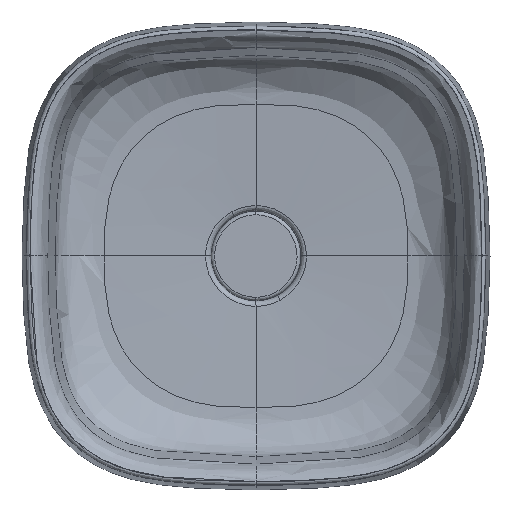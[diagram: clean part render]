
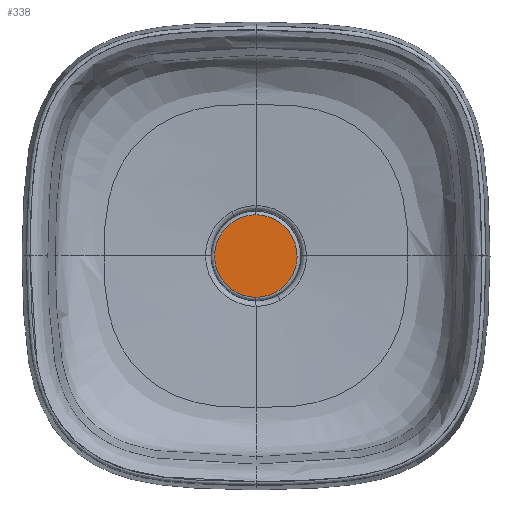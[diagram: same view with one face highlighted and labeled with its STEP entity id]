
A CAD part, top view. The second image highlights one B-rep face of the part: STEP entity #338.
In plain terms, the highlighted planar face has unit normal (0.001, 0, 1).
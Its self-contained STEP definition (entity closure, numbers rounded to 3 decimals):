
#338=ADVANCED_FACE('',(#484),#2036,.T.);
#484=FACE_OUTER_BOUND('',#632,.T.);
#632=EDGE_LOOP('',(#820,#821,#822,#823));
#820=ORIENTED_EDGE('',*,*,#1429,.F.);
#821=ORIENTED_EDGE('',*,*,#1430,.T.);
#822=ORIENTED_EDGE('',*,*,#1442,.T.);
#823=ORIENTED_EDGE('',*,*,#1426,.F.);
#1426=EDGE_CURVE('',#1841,#1842,#1740,.T.);
#1429=EDGE_CURVE('',#1840,#1841,#1743,.T.);
#1430=EDGE_CURVE('',#1840,#1844,#1744,.T.);
#1442=EDGE_CURVE('',#1844,#1842,#1756,.T.);
#1740=(
BOUNDED_CURVE()
B_SPLINE_CURVE(2,(#2546,#2547,#2548),.UNSPECIFIED.,.F.,.F.)
B_SPLINE_CURVE_WITH_KNOTS((3,3),(0.,58.124),.UNSPECIFIED.)
CURVE()
GEOMETRIC_REPRESENTATION_ITEM()
RATIONAL_B_SPLINE_CURVE((1.,0.707,1.))
REPRESENTATION_ITEM('')
);
#1743=(
BOUNDED_CURVE()
B_SPLINE_CURVE(2,(#2555,#2556,#2557),.UNSPECIFIED.,.F.,.F.)
B_SPLINE_CURVE_WITH_KNOTS((3,3),(174.373,232.497),
 .UNSPECIFIED.)
CURVE()
GEOMETRIC_REPRESENTATION_ITEM()
RATIONAL_B_SPLINE_CURVE((1.,0.707,1.))
REPRESENTATION_ITEM('')
);
#1744=(
BOUNDED_CURVE()
B_SPLINE_CURVE(2,(#2558,#2559,#2560),.UNSPECIFIED.,.F.,.F.)
B_SPLINE_CURVE_WITH_KNOTS((3,3),(-174.373,-116.249),
 .UNSPECIFIED.)
CURVE()
GEOMETRIC_REPRESENTATION_ITEM()
RATIONAL_B_SPLINE_CURVE((1.,0.707,1.))
REPRESENTATION_ITEM('')
);
#1756=(
BOUNDED_CURVE()
B_SPLINE_CURVE(2,(#2600,#2601,#2602),.UNSPECIFIED.,.F.,.F.)
B_SPLINE_CURVE_WITH_KNOTS((3,3),(-116.249,-58.124),
 .UNSPECIFIED.)
CURVE()
GEOMETRIC_REPRESENTATION_ITEM()
RATIONAL_B_SPLINE_CURVE((1.,0.707,1.))
REPRESENTATION_ITEM('')
);
#1840=VERTEX_POINT('',#2466);
#1841=VERTEX_POINT('',#2467);
#1842=VERTEX_POINT('',#2468);
#1844=VERTEX_POINT('',#2470);
#2036=PLANE('',#2072);
#2072=AXIS2_PLACEMENT_3D('',#2275,#2091,$);
#2091=DIRECTION('',(0.001,0.,1.));
#2275=CARTESIAN_POINT('',(-44.584,44.269,-95.46));
#2466=CARTESIAN_POINT('',(-0.104,-37.115,-95.476));
#2467=CARTESIAN_POINT('',(-37.136,-0.14,-95.457));
#2468=CARTESIAN_POINT('',(-0.162,36.892,-95.489));
#2470=CARTESIAN_POINT('',(36.87,-0.082,-95.508));
#2546=CARTESIAN_POINT('',(-37.136,-0.14,-95.457));
#2547=CARTESIAN_POINT('',(-37.165,36.863,-95.464));
#2548=CARTESIAN_POINT('',(-0.162,36.892,-95.489));
#2555=CARTESIAN_POINT('',(-0.104,-37.115,-95.476));
#2556=CARTESIAN_POINT('',(-37.107,-37.144,-95.451));
#2557=CARTESIAN_POINT('',(-37.136,-0.14,-95.457));
#2558=CARTESIAN_POINT('',(-0.104,-37.115,-95.476));
#2559=CARTESIAN_POINT('',(36.899,-37.085,-95.501));
#2560=CARTESIAN_POINT('',(36.87,-0.082,-95.508));
#2600=CARTESIAN_POINT('',(36.87,-0.082,-95.508));
#2601=CARTESIAN_POINT('',(36.841,36.921,-95.514));
#2602=CARTESIAN_POINT('',(-0.162,36.892,-95.489));
